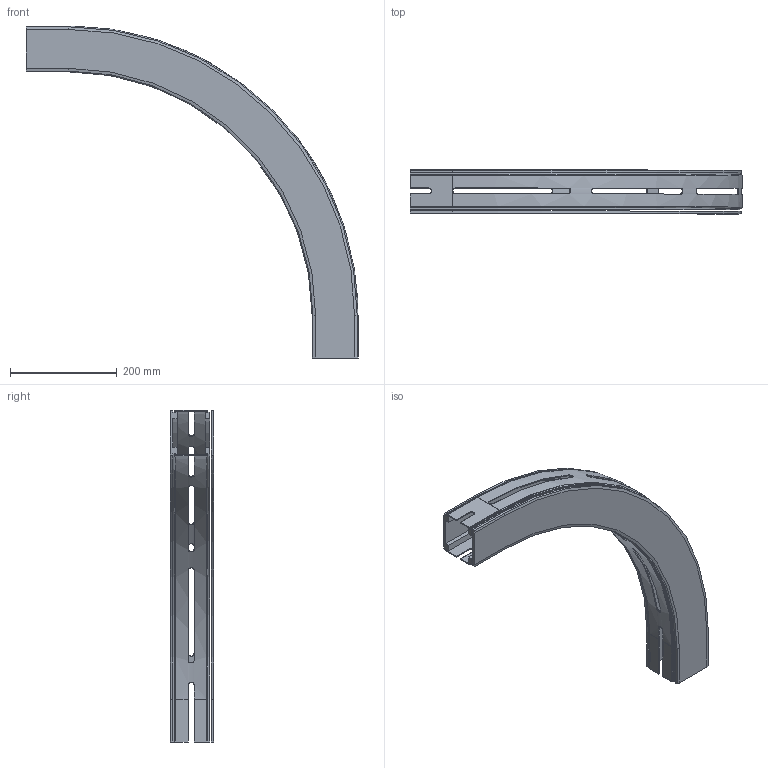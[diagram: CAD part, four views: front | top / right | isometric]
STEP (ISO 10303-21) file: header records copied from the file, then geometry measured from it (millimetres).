
FILE_DESCRIPTION(/* description */ ('GLIDKURVA SERIE 530'),/* implementation_level */ '2;1');
FILE_NAME(/* name */ '530-5375+830-2000-01.stp',/* time_stamp */ '2022-09-20T15:13:19+02:00',/* author */ ('Mathias.Dore'),/* organization */ ('CARRYLINE'),/* preprocessor_version */ 'ST-DEVELOPER v19.2',/* originating_system */ 'Autodesk Inventor 2023',/* authorisation */ '');
FILE_SCHEMA (('AUTOMOTIVE_DESIGN { 1 0 10303 214 3 1 1 }'));
Length unit declared in the file: millimetre
Products named in the file (1): 530-5375+830-2000-01
Bounding box: 623 x 82 x 623 mm (x, y, z)
Volume: 1369360.1 mm3; surface area: 654937.6 mm2
Topology: 2 solids, 2 shells, 187 faces, 518 edges, 340 vertices
Faces by surface type: plane 121, cylinder 30, bspline 28, torus 4, cone 4
Entity records: 6829 total; most frequent: CARTESIAN_POINT 2022, ORIENTED_EDGE 1036, DIRECTION 882, EDGE_CURVE 518, LINE 362, VECTOR 362, VERTEX_POINT 340, AXIS2_PLACEMENT_3D 260
